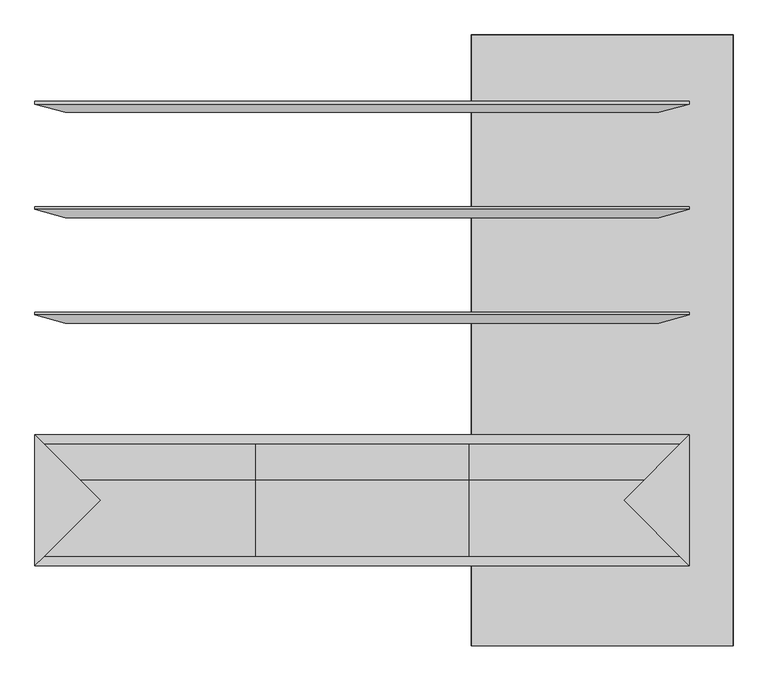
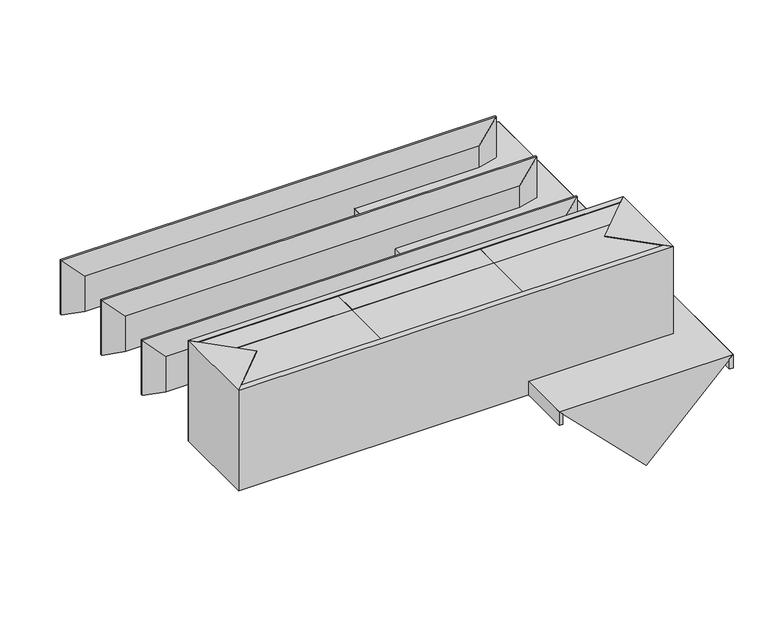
"""IFC4 building model written with IfcOpenShell, lengths in millimetres: proxy geometry, AERO^OFFICE 6_WALL HUNG."""

from ifc_helpers import new_model, si_unit, frame, origin, origin_with_axes, place, context, project, spatial, polyline, outline, extrude, faceted_brep, source, transform, mapped, element, save


def generic_models_a7e872ad(model_context):
    return source(origin(), model_context, "Body", "SolidModel", [
        faceted_brep([(762.0, 1892.3, 304.8), (762.0, 1892.3, 0.0), (762.0, 1901.825, 0.0), (762.0, 1901.825, 304.8), (655.3566482, 1863.725, 0.0), (-1417.3566482, 1863.725, 0.0), (-1524.0, 1892.3, 0.0), (-1524.0, 1901.825, 0.0), (655.3566482, 1863.725, 198.1566482), (-1524.0, 1892.3, 304.8), (-1417.3566482, 1863.725, 198.1566482), (-1524.0, 1901.825, 304.8)], [[[0, 1, 2, 3]], [[2, 1, 4, 5, 6, 7]], [[0, 8, 4, 1]], [[9, 10, 8, 0]], [[6, 5, 10, 9]], [[6, 9, 11, 7]], [[9, 0, 3, 11]], [[4, 8, 10, 5]], [[3, 2, 7, 11]]]),
        extrude(outline(polyline([(-1244.6, 1133.475), (-1244.6, 1158.875), (-76.2, 1158.875), (-76.2, 1133.475), (-1244.6, 1133.475)])), origin_with_axes(), (0.0, 0.0, 1.0), 3.175),
        extrude(outline(polyline([(533.4, 508.0), (762.0, 736.6), (762.0, 279.4), (533.4, 508.0)])), frame((0.0, 0.0, 76.2), z_axis=(0.0, 0.0, 1.0), x_axis=(1.0, 0.0, 0.0)), (0.0, 0.0, 1.0), 482.6),
        extrude(outline(polyline([(-9.2604167, 304.8), (-752.7395833, 304.8), (-752.7395833, 577.85), (-9.2604167, 577.85), (-9.2604167, 304.8)])), frame((0.0, 0.0, 536.575), z_axis=(0.0, 0.0, 1.0), x_axis=(1.0, 0.0, 0.0)), (0.0, 0.0, 1.0), 19.05),
        extrude(outline(polyline([(-6.8791667, 304.8), (-6.8791667, 577.85), (736.6, 577.85), (736.6, 304.8), (-6.8791667, 304.8)])), frame((0.0, 0.0, 536.575), z_axis=(0.0, 0.0, 1.0), x_axis=(1.0, 0.0, 0.0)), (0.0, 0.0, 1.0), 19.05),
        extrude(outline(polyline([(730.25, 311.15), (762.0, 279.4), (-1524.0, 279.4), (-1492.25, 311.15), (730.25, 311.15)])), origin_with_axes(), (0.0, 0.0, 1.0), 558.8),
        extrude(outline(polyline([(736.6, 580.23125), (-6.8791667, 580.23125), (-6.8791667, 711.2), (736.6, 711.2), (736.6, 580.23125)])), frame((0.0, 0.0, 536.575), z_axis=(0.0, 0.0, 1.0), x_axis=(1.0, 0.0, 0.0)), (0.0, 0.0, 1.0), 19.05),
        extrude(outline(polyline([(-1492.25, 704.85), (0.0, 704.85), (0.0, 311.15), (-1492.25, 311.15), (-1492.25, 704.85)])), frame((0.0, 0.0, 19.05), z_axis=(0.0, 0.0, 1.0), x_axis=(1.0, 0.0, 0.0)), (0.0, 0.0, 1.0), 19.05),
        extrude(outline(polyline([(-1295.4, 508.0), (-1524.0, 279.4), (-1524.0, 736.6), (-1295.4, 508.0)])), origin_with_axes(), (0.0, 0.0, 1.0), 558.8),
        extrude(outline(polyline([(-755.1208333, 711.2), (-755.1208333, 580.23125), (-1498.6, 580.23125), (-1498.6, 711.2), (-755.1208333, 711.2)])), frame((0.0, 0.0, 536.575), z_axis=(0.0, 0.0, 1.0), x_axis=(1.0, 0.0, 0.0)), (0.0, 0.0, 1.0), 19.05),
        extrude(outline(polyline([(762.0, 736.6), (730.25, 704.85), (-1492.25, 704.85), (-1524.0, 736.6), (762.0, 736.6)])), origin_with_axes(), (0.0, 0.0, 1.0), 558.8),
        extrude(outline(polyline([(-1498.6, 577.85), (-755.1208333, 577.85), (-755.1208333, 304.8), (-1498.6, 304.8), (-1498.6, 577.85)])), frame((0.0, 0.0, 536.575), z_axis=(0.0, 0.0, 1.0), x_axis=(1.0, 0.0, 0.0)), (0.0, 0.0, 1.0), 19.05),
        extrude(outline(polyline([(-768.35, 311.15), (-768.35, 704.85), (-749.3, 704.85), (-749.3, 311.15), (-768.35, 311.15)])), frame((0.0, 0.0, 38.1), z_axis=(0.0, 0.0, 1.0), x_axis=(1.0, 0.0, 0.0)), (0.0, 0.0, 1.0), 488.95),
        extrude(outline(polyline([(-752.7395833, 711.2), (-9.2604167, 711.2), (-9.2604167, 580.23125), (-752.7395833, 580.23125), (-752.7395833, 711.2)])), frame((0.0, 0.0, 536.575), z_axis=(0.0, 0.0, 1.0), x_axis=(1.0, 0.0, 0.0)), (0.0, 0.0, 1.0), 19.05),
        extrude(outline(polyline([(0.0, 704.85), (730.25, 704.85), (730.25, 311.15), (0.0, 311.15), (0.0, 704.85)])), frame((0.0, 0.0, 95.25), z_axis=(0.0, 0.0, 1.0), x_axis=(1.0, 0.0, 0.0)), (0.0, 0.0, 1.0), 19.05),
        faceted_brep([(914.4, 2133.6, 0.0), (914.4, 2133.6, 76.2), (914.4, 0.0, 76.2), (914.4, 0.0, 0.0), (895.35, 2114.55, 57.15), (895.35, 0.0, 57.15), (895.35, 2114.55, 0.0), (895.35, 0.0, 0.0)], [[[0, 1, 2, 3]], [[1, 4, 5, 2]], [[4, 6, 7, 5]], [[6, 0, 3, 7]], [[3, 2, 5, 7]], [[4, 1, 0, 6]]]),
        faceted_brep([(19.05, 2114.55, 0.0), (19.05, 2114.55, 57.15), (19.05, 0.0, 57.15), (19.05, 0.0, 0.0), (0.0, 2133.6, 76.2), (0.0, 0.0, 76.2), (0.0, 2133.6, 0.0), (0.0, 0.0, 0.0)], [[[0, 1, 2, 3]], [[1, 4, 5, 2]], [[4, 6, 7, 5]], [[6, 0, 3, 7]], [[3, 2, 5, 7]], [[4, 1, 0, 6]]]),
        faceted_brep([(914.4, 0.0, 76.2), (457.2, 0.0, -381.0), (457.2, 1676.4, -381.0), (914.4, 2133.6, 76.2), (0.0, 0.0, 76.2), (0.0, 2133.6, 76.2)], [[[0, 1, 2, 3]], [[1, 0, 4]], [[3, 2, 5]], [[1, 4, 5, 2]], [[0, 3, 5, 4]]]),
        faceted_brep([(0.0, 2133.6, 0.0), (19.05, 2114.55, 0.0), (19.05, 2114.55, 57.15), (0.0, 2133.6, 76.2), (895.35, 2114.55, 0.0), (895.35, 2114.55, 57.15), (914.4, 2133.6, 0.0), (914.4, 2133.6, 76.2)], [[[0, 1, 2, 3]], [[2, 1, 4, 5]], [[1, 0, 6, 4]], [[4, 6, 7, 5]], [[0, 3, 7, 6]], [[3, 2, 5, 7]]]),
        faceted_brep([(762.0, 1155.7, 304.8), (762.0, 1155.7, 0.0), (762.0, 1165.225, 0.0), (762.0, 1165.225, 304.8), (655.3566482, 1127.125, 0.0), (-1417.3566482, 1127.125, 0.0), (-1524.0, 1155.7, 0.0), (-1524.0, 1165.225, 0.0), (655.3566482, 1127.125, 198.1566482), (-1524.0, 1155.7, 304.8), (-1417.3566482, 1127.125, 198.1566482), (-1524.0, 1165.225, 304.8)], [[[0, 1, 2, 3]], [[2, 1, 4, 5, 6, 7]], [[0, 8, 4, 1]], [[9, 10, 8, 0]], [[6, 5, 10, 9]], [[6, 9, 11, 7]], [[9, 0, 3, 11]], [[4, 8, 10, 5]], [[3, 2, 7, 11]]]),
        extrude(outline(polyline([(-1244.6, 1501.775), (-1244.6, 1527.175), (-76.2, 1527.175), (-76.2, 1501.775), (-1244.6, 1501.775)])), origin_with_axes(), (0.0, 0.0, 1.0), 3.175),
        extrude(outline(polyline([(-1244.6, 1870.075), (-1244.6, 1895.475), (-76.2, 1895.475), (-76.2, 1870.075), (-1244.6, 1870.075)])), origin_with_axes(), (0.0, 0.0, 1.0), 3.175),
        faceted_brep([(762.0, 1524.0, 304.8), (762.0, 1524.0, 0.0), (762.0, 1533.525, 0.0), (762.0, 1533.525, 304.8), (655.3566482, 1495.425, 0.0), (-1417.3566482, 1495.425, 0.0), (-1524.0, 1524.0, 0.0), (-1524.0, 1533.525, 0.0), (655.3566482, 1495.425, 198.1566482), (-1524.0, 1524.0, 304.8), (-1417.3566482, 1495.425, 198.1566482), (-1524.0, 1533.525, 304.8)], [[[0, 1, 2, 3]], [[2, 1, 4, 5, 6, 7]], [[0, 8, 4, 1]], [[9, 10, 8, 0]], [[6, 5, 10, 9]], [[6, 9, 11, 7]], [[9, 0, 3, 11]], [[4, 8, 10, 5]], [[3, 2, 7, 11]]]),
    ])


if __name__ == "__main__":
    model = new_model("IFC4")
    model_context = context("Model", 3, world=origin())
    ifc_project = project(units=[si_unit("LENGTHUNIT", "METRE", prefix="MILLI")], contexts=[model_context])
    site = spatial("IfcSite", under=ifc_project)
    building = spatial("IfcBuilding", under=site)
    placement = place(None, origin())
    generic_models_shape = generic_models_a7e872ad(model_context)
    element("IfcBuildingElementProxy", 1, Name="AERO^OFFICE 6_WALL HUNG", ObjectType="AERO^OFFICE 6_WALL HUNG", at=placement, inside=building, context=model_context, shape_type="MappedRepresentation", body=[
        mapped(generic_models_shape, transform((0.0, 0.0, 0.0), x_axis=(1.0, 0.0, 0.0), y_axis=(0.0, 1.0, 0.0), z_axis=(0.0, 0.0, 1.0))),
    ])
    save(model, "model.ifc")
